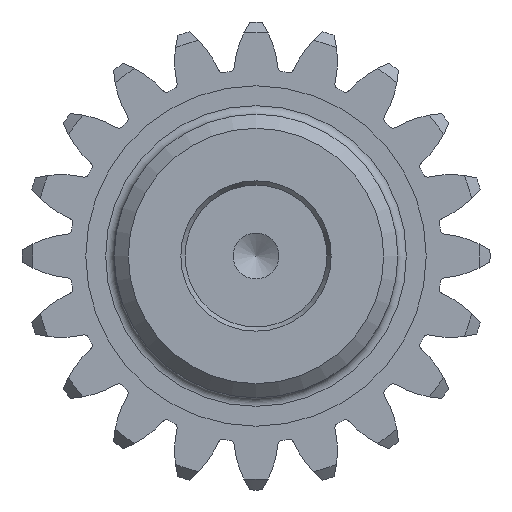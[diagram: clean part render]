
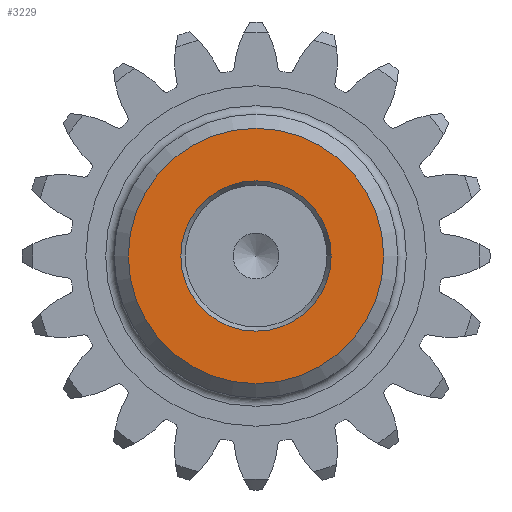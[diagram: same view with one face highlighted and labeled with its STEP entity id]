
A CAD part, left-side view. The second image highlights one B-rep face of the part: STEP entity #3229.
In plain terms, the highlighted planar face has unit normal (-1, 0, 0).
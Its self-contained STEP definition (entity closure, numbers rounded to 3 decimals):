
#101=FACE_BOUND('',#439,.T.);
#109=PLANE('',#3444);
#251=FACE_OUTER_BOUND('',#438,.T.);
#438=EDGE_LOOP('',(#2124));
#439=EDGE_LOOP('',(#2125));
#914=CIRCLE('',#3441,5.3);
#917=CIRCLE('',#3445,9.);
#1224=VERTEX_POINT('',#5078);
#1227=VERTEX_POINT('',#5086);
#1582=EDGE_CURVE('',#1224,#1224,#914,.T.);
#1586=EDGE_CURVE('',#1227,#1227,#917,.T.);
#2124=ORIENTED_EDGE('',*,*,#1586,.F.);
#2125=ORIENTED_EDGE('',*,*,#1582,.F.);
#3229=ADVANCED_FACE('',(#251,#101),#109,.T.);
#3441=AXIS2_PLACEMENT_3D('',#5079,#3946,#3947);
#3444=AXIS2_PLACEMENT_3D('',#5085,#3953,#3954);
#3445=AXIS2_PLACEMENT_3D('',#5087,#3955,#3956);
#3946=DIRECTION('center_axis',(-1.,0.,0.));
#3947=DIRECTION('ref_axis',(0.,-1.,0.));
#3953=DIRECTION('center_axis',(-1.,0.,0.));
#3954=DIRECTION('ref_axis',(0.,0.,1.));
#3955=DIRECTION('center_axis',(1.,0.,0.));
#3956=DIRECTION('ref_axis',(0.,-1.,0.));
#5078=CARTESIAN_POINT('',(-58.,5.3,0.));
#5079=CARTESIAN_POINT('Origin',(-58.,0.,0.));
#5085=CARTESIAN_POINT('Origin',(-58.,10.,0.));
#5086=CARTESIAN_POINT('',(-58.,9.,0.));
#5087=CARTESIAN_POINT('Origin',(-58.,0.,0.));
